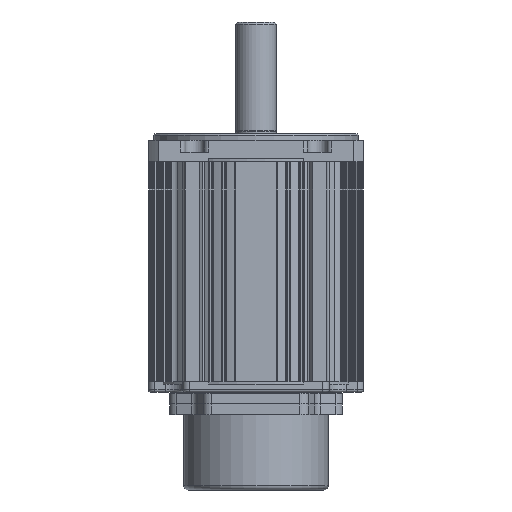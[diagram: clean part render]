
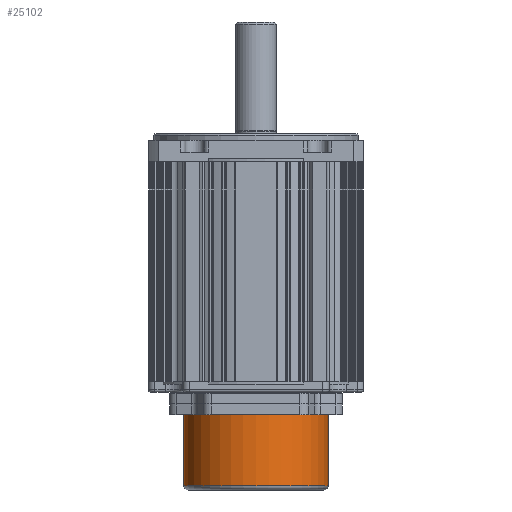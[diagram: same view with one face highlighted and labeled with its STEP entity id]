
A CAD part, front view. The second image highlights one B-rep face of the part: STEP entity #25102.
In plain terms, the highlighted cylindrical face has radius 33.5 mm (diameter 67 mm), a partial arc.
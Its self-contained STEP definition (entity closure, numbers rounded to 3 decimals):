
#275 = VERTEX_POINT ( 'NONE', #35597 ) ;
#2073 = DIRECTION ( 'NONE',  ( -1., 0., 0. ) ) ;
#3111 = CYLINDRICAL_SURFACE ( 'NONE', #25145, 33.5 ) ;
#3497 = CIRCLE ( 'NONE', #22903, 33.5 ) ;
#4939 = DIRECTION ( 'NONE',  ( 0., 0., 1. ) ) ;
#5207 = ORIENTED_EDGE ( 'NONE', *, *, #55569, .T. ) ;
#5258 = CARTESIAN_POINT ( 'NONE',  ( 0., 0., -38. ) ) ;
#7005 = ORIENTED_EDGE ( 'NONE', *, *, #21745, .T. ) ;
#8383 = DIRECTION ( 'NONE',  ( 0., 0., 1. ) ) ;
#11440 = CARTESIAN_POINT ( 'NONE',  ( -33.5, 0., -38. ) ) ;
#11841 = FACE_OUTER_BOUND ( 'NONE', #28024, .T. ) ;
#12404 = DIRECTION ( 'NONE',  ( 1., 0., 0. ) ) ;
#13668 = VECTOR ( 'NONE', #17593, 1000. ) ;
#14361 = VERTEX_POINT ( 'NONE', #17627 ) ;
#17593 = DIRECTION ( 'NONE',  ( 0., 0., 1. ) ) ;
#17627 = CARTESIAN_POINT ( 'NONE',  ( 33.5, 0., -38. ) ) ;
#18285 = LINE ( 'NONE', #31650, #35089 ) ;
#21745 = EDGE_CURVE ( 'NONE', #55997, #14361, #3497, .T. ) ;
#21910 = LINE ( 'NONE', #57364, #13668 ) ;
#22903 = AXIS2_PLACEMENT_3D ( 'NONE', #5258, #48843, #27606 ) ;
#24156 = DIRECTION ( 'NONE',  ( 0., 0., -1. ) ) ;
#24839 = AXIS2_PLACEMENT_3D ( 'NONE', #37223, #24156, #2073 ) ;
#25102 = ADVANCED_FACE ( 'NONE', ( #11841 ), #3111, .T. ) ;
#25145 = AXIS2_PLACEMENT_3D ( 'NONE', #47552, #8383, #12404 ) ;
#27606 = DIRECTION ( 'NONE',  ( -1., 0., 0. ) ) ;
#28024 = EDGE_LOOP ( 'NONE', ( #56146, #7005, #5207, #31489 ) ) ;
#31392 = EDGE_CURVE ( 'NONE', #55997, #275, #21910, .T. ) ;
#31489 = ORIENTED_EDGE ( 'NONE', *, *, #32332, .T. ) ;
#31650 = CARTESIAN_POINT ( 'NONE',  ( 33.5, 0., -40. ) ) ;
#32267 = CIRCLE ( 'NONE', #24839, 33.5 ) ;
#32332 = EDGE_CURVE ( 'NONE', #55465, #275, #32267, .T. ) ;
#35089 = VECTOR ( 'NONE', #4939, 1000. ) ;
#35597 = CARTESIAN_POINT ( 'NONE',  ( -33.5, 0., -5. ) ) ;
#37223 = CARTESIAN_POINT ( 'NONE',  ( 0., 0., -5. ) ) ;
#47552 = CARTESIAN_POINT ( 'NONE',  ( 0., 0., -40. ) ) ;
#48843 = DIRECTION ( 'NONE',  ( 0., 0., 1. ) ) ;
#49104 = CARTESIAN_POINT ( 'NONE',  ( 33.5, 0., -5. ) ) ;
#55465 = VERTEX_POINT ( 'NONE', #49104 ) ;
#55569 = EDGE_CURVE ( 'NONE', #14361, #55465, #18285, .T. ) ;
#55997 = VERTEX_POINT ( 'NONE', #11440 ) ;
#56146 = ORIENTED_EDGE ( 'NONE', *, *, #31392, .F. ) ;
#57364 = CARTESIAN_POINT ( 'NONE',  ( -33.5, 0., -40. ) ) ;
